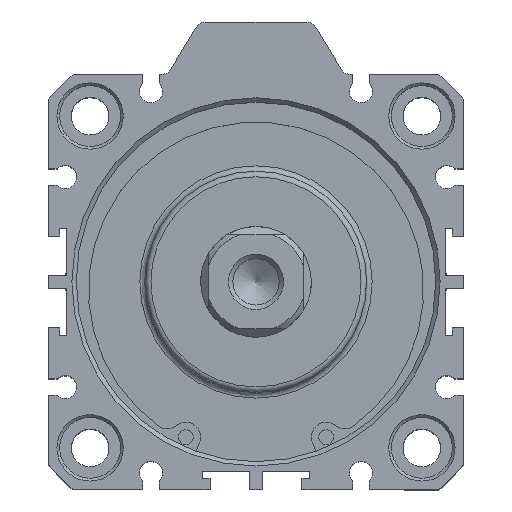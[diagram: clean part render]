
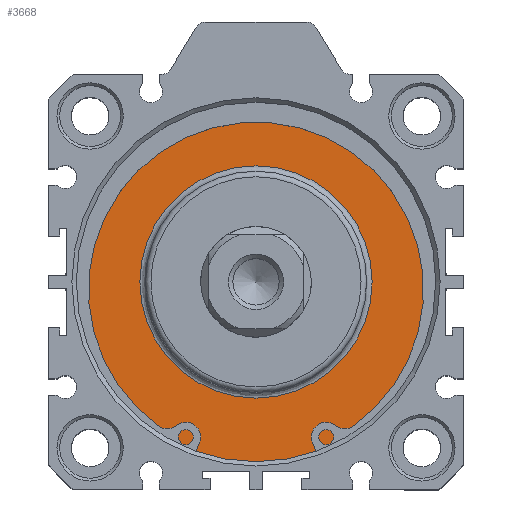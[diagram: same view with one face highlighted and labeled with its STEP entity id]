
A CAD part, top view. The second image highlights one B-rep face of the part: STEP entity #3668.
In plain terms, the highlighted planar face has unit normal (0, 0, 1).
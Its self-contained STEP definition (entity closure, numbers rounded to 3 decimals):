
#3617=CARTESIAN_POINT('',(0.359,19.684,67.3));
#3618=VERTEX_POINT('',#3617);
#3619=CARTESIAN_POINT('',(0.359,-1.316,67.3));
#3620=DIRECTION('',(0.0,0.0,1.0));
#3621=DIRECTION('',(0.0,-1.0,0.0));
#3622=AXIS2_PLACEMENT_3D('',#3619,#3620,#3621);
#3623=CIRCLE('',#3622,21.0);
#3624=EDGE_CURVE('',#3618,#3618,#3623,.T.);
#3649=CARTESIAN_POINT('',(0.359,24.934,67.3));
#3650=DIRECTION('',(0.0,0.0,1.0));
#3651=DIRECTION('',(1.0,0.0,0.0));
#3652=AXIS2_PLACEMENT_3D('',#3649,#3650,#3651);
#3653=PLANE('',#3652);
#3654=CARTESIAN_POINT('',(0.359,31.184,67.3));
#3655=VERTEX_POINT('',#3654);
#3656=CARTESIAN_POINT('',(0.359,-1.316,67.3));
#3657=DIRECTION('',(0.0,0.0,-1.0));
#3658=DIRECTION('',(0.0,1.0,0.0));
#3659=AXIS2_PLACEMENT_3D('',#3656,#3657,#3658);
#3660=CIRCLE('',#3659,32.5);
#3661=EDGE_CURVE('',#3655,#3655,#3660,.T.);
#3662=ORIENTED_EDGE('',*,*,#3661,.F.);
#3663=EDGE_LOOP('',(#3662));
#3664=FACE_OUTER_BOUND('',#3663,.T.);
#3665=ORIENTED_EDGE('',*,*,#3624,.F.);
#3666=EDGE_LOOP('',(#3665));
#3667=FACE_BOUND('',#3666,.T.);
#3668=ADVANCED_FACE('',(#3664,#3667),#3653,.T.);
